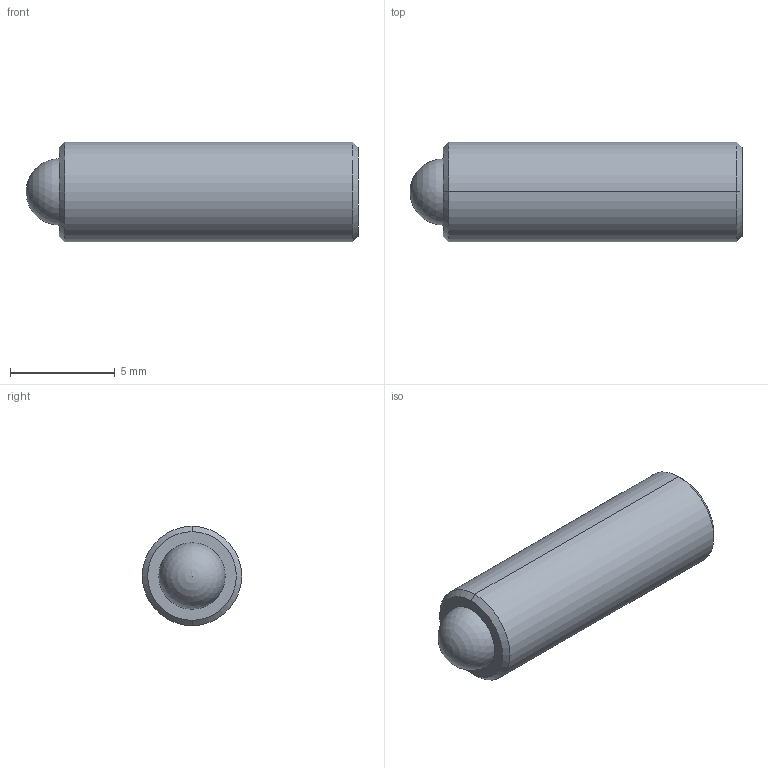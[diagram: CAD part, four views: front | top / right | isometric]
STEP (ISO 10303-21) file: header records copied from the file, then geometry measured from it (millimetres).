
FILE_DESCRIPTION (( 'STEP AP214' ), '1' );
FILE_NAME ('TS187-100-625.STEP', '2013-02-11T15:57:05', ( 'workpc' ), ( 'Microsoft' ), 'SwSTEP 2.0', 'SolidWorks 2013', '' );
FILE_SCHEMA (( 'AUTOMOTIVE_DESIGN' ));
Length unit declared in the file: inch
Products named in the file (1): TS187-100-625
Bounding box: 15.88 x 4.75 x 4.75 mm (x, y, z)
Volume: 248.6 mm3; surface area: 307.2 mm2
Topology: 2 solids, 2 shells, 20 faces, 45 edges, 29 vertices
Faces by surface type: plane 10, cylinder 4, cone 4, sphere 2
Entity records: 599 total; most frequent: DIRECTION 96, CARTESIAN_POINT 87, ORIENTED_EDGE 80, EDGE_CURVE 40, AXIS2_PLACEMENT_3D 35, VECTOR 26, VERTEX_POINT 26, LINE 26
